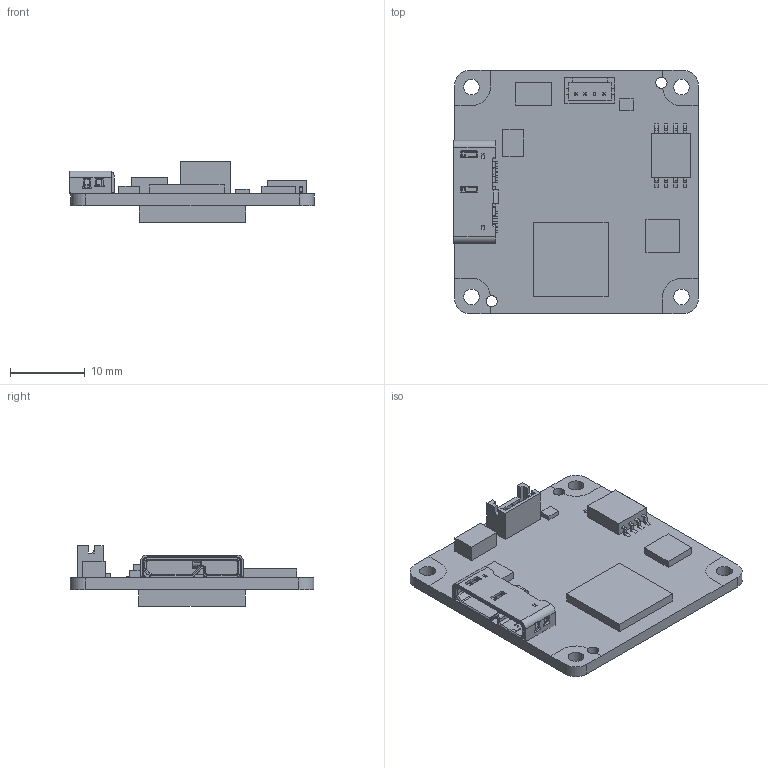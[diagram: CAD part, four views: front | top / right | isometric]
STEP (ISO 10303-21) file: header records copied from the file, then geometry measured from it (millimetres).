
FILE_DESCRIPTION (( 'STEP AP203' ), '1' );
FILE_NAME ('ven_161_u3(single board)_user_s1.0.0.STEP', '2022-03-01T08:40:14', ( '' ), ( '' ), 'SwSTEP 2.0', 'SolidWorks 2016', '' );
FILE_SCHEMA (( 'CONFIG_CONTROL_DESIGN' ));
Length unit declared in the file: millimetre
Products named in the file (1): ven_161_u3(single board)_user_s1.0.0
Bounding box: 32.64 x 32.5 x 8.12 mm (x, y, z)
Volume: 2559.5 mm3; surface area: 3948.8 mm2
Topology: 5 solids, 6 shells, 944 faces, 2730 edges, 1791 vertices
Faces by surface type: plane 637, cylinder 281, cone 14, torus 12
Entity records: 31850 total; most frequent: CARTESIAN_POINT 6985, ORIENTED_EDGE 5460, DIRECTION 4794, EDGE_CURVE 2730, VECTOR 2016, LINE 2016, VERTEX_POINT 1791, AXIS2_PLACEMENT_3D 1389
